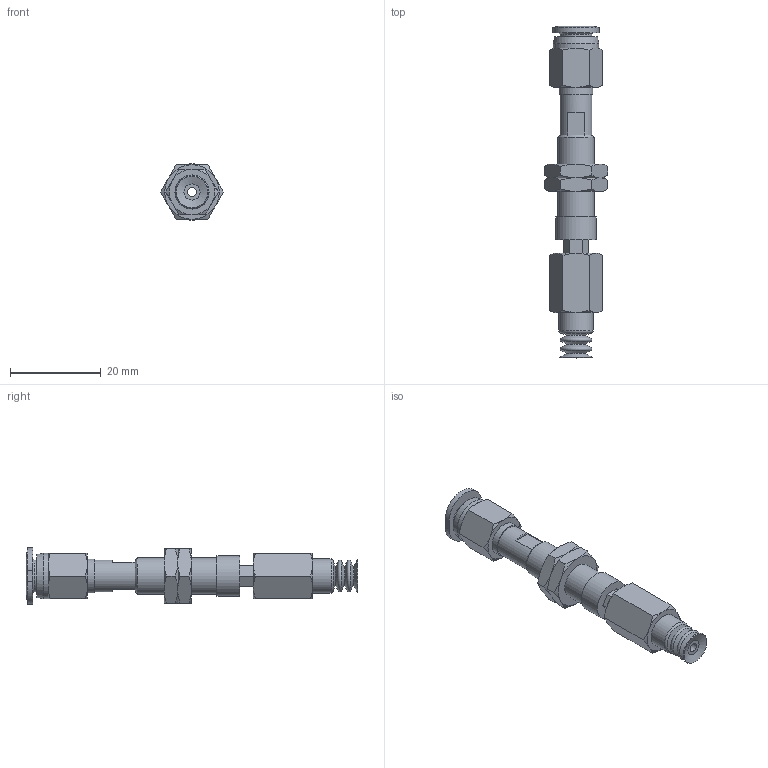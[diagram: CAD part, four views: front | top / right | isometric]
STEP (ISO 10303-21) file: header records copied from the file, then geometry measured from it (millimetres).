
FILE_DESCRIPTION(('STEP AP203'),'1');
FILE_NAME('-O.stp','2025-08-27T01:24:43',(' '),(' '),'Spatial InterOp 3D',' ',' ');
FILE_SCHEMA(('CONFIG_CONTROL_DESIGN'));
Length unit declared in the file: millimetre
Products named in the file (7): BNABPCTH-7-3-※-O; ADAPTER; NAPATH-10A-3--M; Nut napc_h-7-3; NAPCTH-7-3-FBODY; BPCG-7-※; PC-C_06-M5
Assembly tree (7 placements, depth 2):
  BNABPCTH-7-3-※-O
    ADAPTER
    NAPATH-10A-3--M
    Nut napc_h-7-3  x2
    NAPCTH-7-3-FBODY
    BPCG-7-※
    PC-C_06-M5
Bounding box: 13.86 x 72.98 x 12.4 mm (x, y, z)
Volume: 3332.1 mm3; surface area: 5082.1 mm2
Topology: 6 solids, 9 shells, 181 faces, 376 edges, 225 vertices
Faces by surface type: plane 70, cone 66, cylinder 23, torus 15, bspline 4, revolution 3
Full cylindrical faces by diameter (mm): 2 x3, 4 x4, 4.134 x1, 5 x1, 6 x2, 7 x2, 7.188 x2, 7.4 x1, 7.5 x1, 8 x1, 8.2 x1, 9 x1, 10 x1
Entity records: 4632 total; most frequent: CARTESIAN_POINT 1265, DIRECTION 627, ORIENTED_EDGE 536, AXIS2_PLACEMENT_3D 274, EDGE_CURVE 270, EDGE_LOOP 236, VERTEX_POINT 192, FACE_OUTER_BOUND 133
